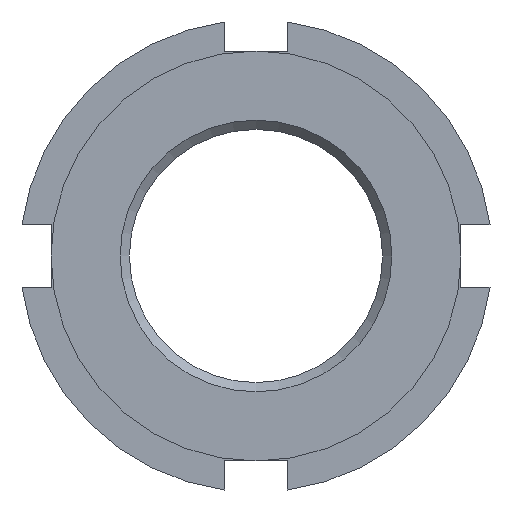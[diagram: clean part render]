
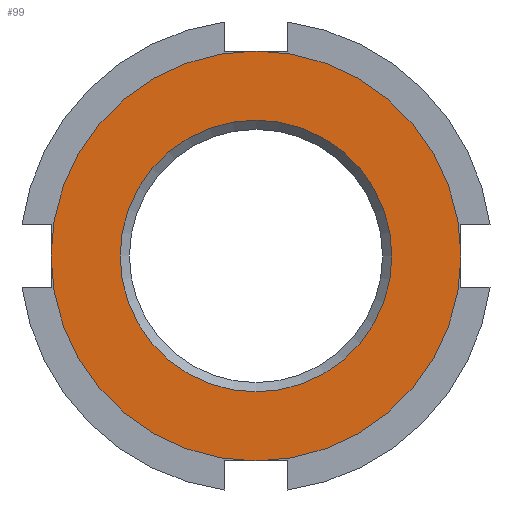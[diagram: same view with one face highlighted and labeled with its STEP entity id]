
A CAD part, left-side view. The second image highlights one B-rep face of the part: STEP entity #99.
In plain terms, the highlighted planar face has unit normal (-1, 0, 0).
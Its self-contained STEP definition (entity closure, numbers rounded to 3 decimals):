
#99 = ADVANCED_FACE( '', ( #167, #168 ), #169, .F. );
#167 = FACE_OUTER_BOUND( '', #245, .T. );
#168 = FACE_BOUND( '', #246, .T. );
#169 = PLANE( '', #247 );
#245 = EDGE_LOOP( '', ( #438 ) );
#246 = EDGE_LOOP( '', ( #439 ) );
#247 = AXIS2_PLACEMENT_3D( '', #440, #441, #442 );
#438 = ORIENTED_EDGE( '', *, *, #570, .F. );
#439 = ORIENTED_EDGE( '', *, *, #550, .T. );
#440 = CARTESIAN_POINT( '', ( 0., 0., 0. ) );
#441 = DIRECTION( '', ( 1., 0., 0. ) );
#442 = DIRECTION( '', ( 0., 0., -1. ) );
#550 = EDGE_CURVE( '', #656, #656, #657, .T. );
#570 = EDGE_CURVE( '', #684, #684, #685, .T. );
#656 = VERTEX_POINT( '', #829 );
#657 = CIRCLE( '', #830, 10.938 );
#684 = VERTEX_POINT( '', #865 );
#685 = CIRCLE( '', #866, 16.5 );
#829 = CARTESIAN_POINT( '', ( 0., 0., -10.938 ) );
#830 = AXIS2_PLACEMENT_3D( '', #947, #948, #949 );
#865 = CARTESIAN_POINT( '', ( 0., 0., -16.5 ) );
#866 = AXIS2_PLACEMENT_3D( '', #994, #995, #996 );
#947 = CARTESIAN_POINT( '', ( 0., 0., 0. ) );
#948 = DIRECTION( '', ( 1., 0., 0. ) );
#949 = DIRECTION( '', ( 0., 0., -1. ) );
#994 = CARTESIAN_POINT( '', ( 0., 0., 0. ) );
#995 = DIRECTION( '', ( 1., 0., 0. ) );
#996 = DIRECTION( '', ( 0., 0., -1. ) );
